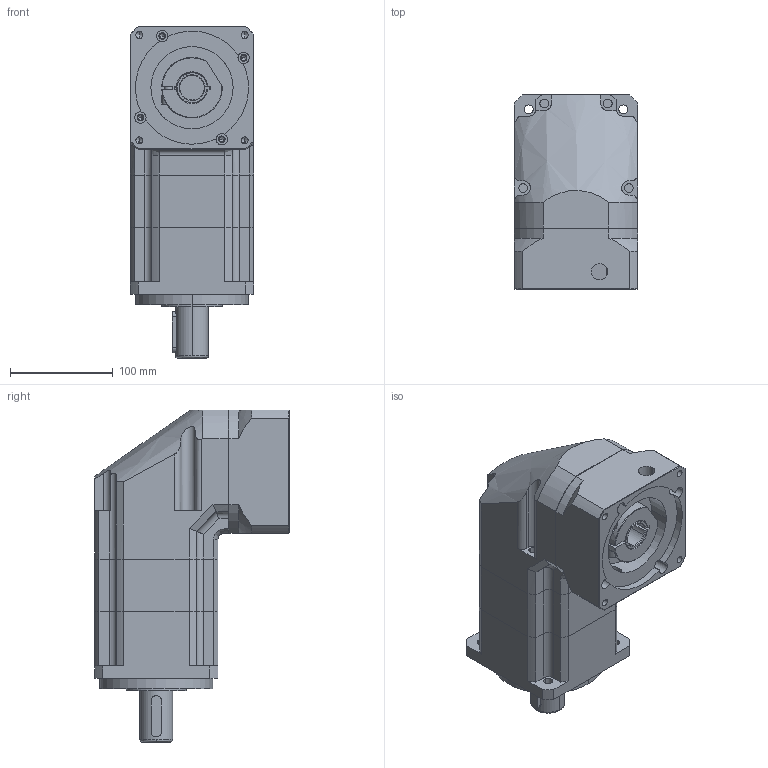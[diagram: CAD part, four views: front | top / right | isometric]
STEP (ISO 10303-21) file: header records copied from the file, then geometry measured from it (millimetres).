
FILE_DESCRIPTION (( 'STEP AP203' ), '1' );
FILE_NAME ('PAMG120-L2-24-110-145.STEP', '2022-07-18T03:59:08', ( 'Windows User' ), ( 'P R C' ), 'SwSTEP 2.0', 'SolidWorks 2016', '' );
FILE_SCHEMA (( 'CONFIG_CONTROL_DESIGN' ));
Length unit declared in the file: millimetre
Products named in the file (9): PAMG120-LJ党蜊唳; PAMG120-L2-24-110-145; PAMG120-HCZ  24謂; PAMG120   坶踡遠_22; GB／T70．1-2000   内六角圆柱头螺钉M8×20_1; 邧埴瑩   10x8x40; PAMG120-二级齿圈; PAMG120-本体齿圈; PAMG120-XT
Assembly tree (8 placements, depth 2):
  PAMG120-L2-24-110-145
    PAMG120-HCZ  24謂
    PAMG120   坶踡遠_22
    GB／T70．1-2000   内六角圆柱头螺钉M8×20_1
    邧埴瑩   10x8x40
    PAMG120-二级齿圈
    PAMG120-本体齿圈
    PAMG120-XT
    PAMG120-LJ党蜊唳
Bounding box: 120 x 189.5 x 323 mm (x, y, z)
Volume: 3846957.9 mm3; surface area: 311120.7 mm2
Topology: 8 solids, 8 shells, 991 faces, 2640 edges, 1735 vertices
Faces by surface type: plane 605, cylinder 184, bspline 151, cone 51
Entity records: 37736 total; most frequent: CARTESIAN_POINT 12928, ORIENTED_EDGE 5244, DIRECTION 4355, EDGE_CURVE 2622, VECTOR 1835, LINE 1835, VERTEX_POINT 1735, AXIS2_PLACEMENT_3D 1260
